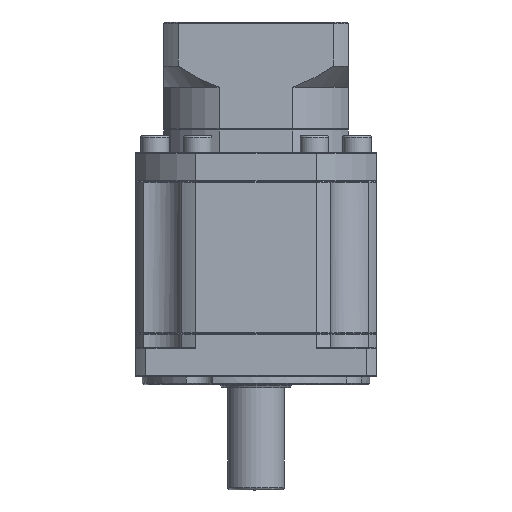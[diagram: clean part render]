
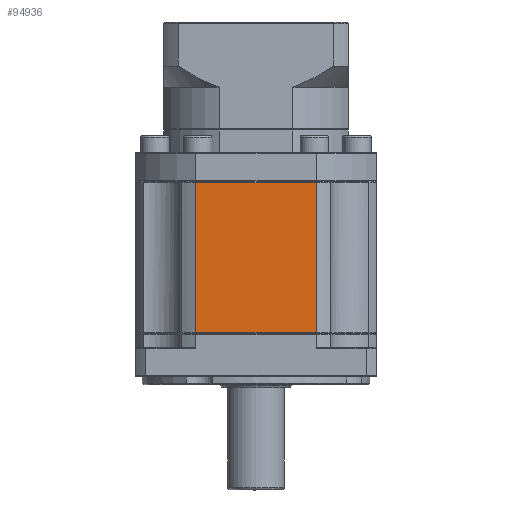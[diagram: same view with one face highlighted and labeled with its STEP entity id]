
A CAD part, front view. The second image highlights one B-rep face of the part: STEP entity #94936.
In plain terms, the highlighted planar face has unit normal (0, -1, 0).
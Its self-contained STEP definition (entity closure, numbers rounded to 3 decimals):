
#4031 = DIRECTION ( 'NONE',  ( 0., 0., 1. ) ) ;
#8078 = CARTESIAN_POINT ( 'NONE',  ( 1.422, -36.477, -25.447 ) ) ;
#8712 = LINE ( 'NONE', #14724, #53297 ) ;
#13749 = EDGE_CURVE ( 'NONE', #106632, #42489, #8712, .T. ) ;
#14724 = CARTESIAN_POINT ( 'NONE',  ( 1.422, -36.477, 27.803 ) ) ;
#15467 = CARTESIAN_POINT ( 'NONE',  ( 43.848, -36.477, 27.803 ) ) ;
#22094 = DIRECTION ( 'NONE',  ( 1., 0., 0. ) ) ;
#27800 = CARTESIAN_POINT ( 'NONE',  ( 1.422, -36.477, 27.553 ) ) ;
#30582 = ORIENTED_EDGE ( 'NONE', *, *, #72373, .F. ) ;
#36322 = LINE ( 'NONE', #48508, #57275 ) ;
#40035 = EDGE_CURVE ( 'NONE', #78629, #106632, #71869, .T. ) ;
#42489 = VERTEX_POINT ( 'NONE', #27800 ) ;
#48508 = CARTESIAN_POINT ( 'NONE',  ( 22.635, -36.477, 27.553 ) ) ;
#53297 = VECTOR ( 'NONE', #103963, 1000. ) ;
#53355 = VECTOR ( 'NONE', #95736, 1000. ) ;
#56022 = CARTESIAN_POINT ( 'NONE',  ( 43.848, -36.477, -25.447 ) ) ;
#57275 = VECTOR ( 'NONE', #22094, 1000. ) ;
#57435 = DIRECTION ( 'NONE',  ( 0., 1., 0. ) ) ;
#60902 = CARTESIAN_POINT ( 'NONE',  ( 43.848, -36.477, -25.447 ) ) ;
#61629 = ORIENTED_EDGE ( 'NONE', *, *, #13749, .F. ) ;
#71869 = LINE ( 'NONE', #56022, #95606 ) ;
#72373 = EDGE_CURVE ( 'NONE', #42489, #109216, #36322, .T. ) ;
#74998 = PLANE ( 'NONE',  #82817 ) ;
#77057 = LINE ( 'NONE', #15467, #53355 ) ;
#78629 = VERTEX_POINT ( 'NONE', #60902 ) ;
#81268 = CARTESIAN_POINT ( 'NONE',  ( 43.848, -36.477, 27.553 ) ) ;
#81651 = FACE_OUTER_BOUND ( 'NONE', #83350, .T. ) ;
#82817 = AXIS2_PLACEMENT_3D ( 'NONE', #110890, #57435, #4031 ) ;
#83350 = EDGE_LOOP ( 'NONE', ( #89870, #95719, #30582, #61629 ) ) ;
#89870 = ORIENTED_EDGE ( 'NONE', *, *, #40035, .F. ) ;
#91396 = EDGE_CURVE ( 'NONE', #109216, #78629, #77057, .T. ) ;
#94936 = ADVANCED_FACE ( 'NONE', ( #81651 ), #74998, .F. ) ;
#95606 = VECTOR ( 'NONE', #109479, 1000. ) ;
#95719 = ORIENTED_EDGE ( 'NONE', *, *, #91396, .F. ) ;
#95736 = DIRECTION ( 'NONE',  ( 0., 0., -1. ) ) ;
#103963 = DIRECTION ( 'NONE',  ( 0., 0., 1. ) ) ;
#106632 = VERTEX_POINT ( 'NONE', #8078 ) ;
#109216 = VERTEX_POINT ( 'NONE', #81268 ) ;
#109479 = DIRECTION ( 'NONE',  ( -1., 0., 0. ) ) ;
#110890 = CARTESIAN_POINT ( 'NONE',  ( 43.848, -36.477, 27.803 ) ) ;
